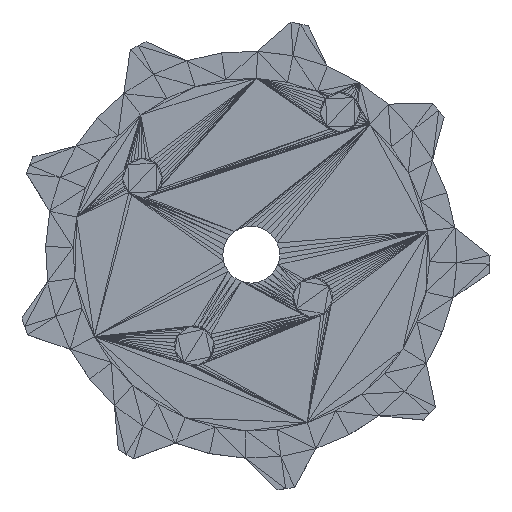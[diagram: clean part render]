
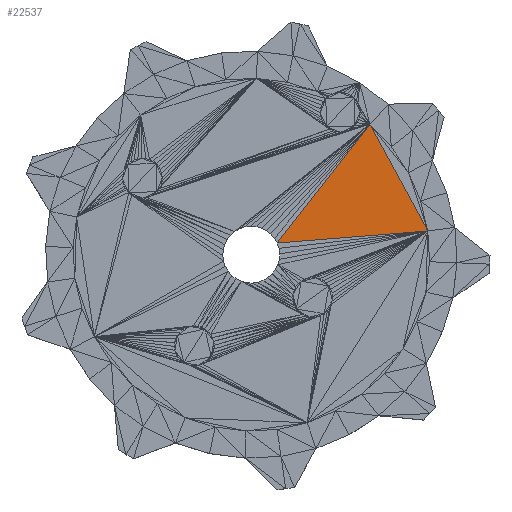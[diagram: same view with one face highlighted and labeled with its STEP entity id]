
A CAD part, top view. The second image highlights one B-rep face of the part: STEP entity #22537.
In plain terms, the highlighted planar face has unit normal (0, 0, 1).
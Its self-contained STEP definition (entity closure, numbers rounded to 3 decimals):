
#503 = VERTEX_POINT('',#504);
#504 = CARTESIAN_POINT('',(-0.226,0.363,0.639
    ));
#1130 = VERTEX_POINT('',#1131);
#1131 = CARTESIAN_POINT('',(-0.22,0.352,0.639
    ));
#22358 = PLANE('',#22359);
#22359 = AXIS2_PLACEMENT_3D('',#22360,#22361,#22362);
#22360 = CARTESIAN_POINT('',(-0.222,0.358,
    0.639));
#22361 = DIRECTION('',(0.,0.,1.));
#22362 = DIRECTION('',(1.,0.,-0.));
#22399 = EDGE_CURVE('',#503,#1130,#22400,.T.);
#22400 = SURFACE_CURVE('',#22401,(#22405,#22412),.PCURVE_S1.);
#22401 = LINE('',#22402,#22403);
#22402 = CARTESIAN_POINT('',(-0.226,0.363,
    0.639));
#22403 = VECTOR('',#22404,1.);
#22404 = DIRECTION('',(0.476,-0.879,0.));
#22405 = PCURVE('',#22358,#22406);
#22406 = DEFINITIONAL_REPRESENTATION('',(#22407),#22411);
#22407 = LINE('',#22408,#22409);
#22408 = CARTESIAN_POINT('',(-0.003,0.005));
#22409 = VECTOR('',#22410,1.);
#22410 = DIRECTION('',(0.476,-0.879));
#22411 = ( GEOMETRIC_REPRESENTATION_CONTEXT(2) 
PARAMETRIC_REPRESENTATION_CONTEXT() REPRESENTATION_CONTEXT('2D SPACE',''
  ) );
#22412 = PCURVE('',#22413,#22418);
#22413 = PLANE('',#22414);
#22414 = AXIS2_PLACEMENT_3D('',#22415,#22416,#22417);
#22415 = CARTESIAN_POINT('',(-0.227,0.355,
    0.639));
#22416 = DIRECTION('',(0.,0.,1.));
#22417 = DIRECTION('',(1.,0.,-0.));
#22418 = DEFINITIONAL_REPRESENTATION('',(#22419),#22422);
#22419 = B_SPLINE_CURVE_WITH_KNOTS('',1,(#22420,#22421),.UNSPECIFIED.,
  .F.,.F.,(2,2),(0.,0.013),.PIECEWISE_BEZIER_KNOTS.);
#22420 = CARTESIAN_POINT('',(0.002,0.008));
#22421 = CARTESIAN_POINT('',(0.008,-0.003));
#22422 = ( GEOMETRIC_REPRESENTATION_CONTEXT(2) 
PARAMETRIC_REPRESENTATION_CONTEXT() REPRESENTATION_CONTEXT('2D SPACE',''
  ) );
#22537 = ADVANCED_FACE('',(#22538),#22413,.T.);
#22538 = FACE_BOUND('',#22539,.T.);
#22539 = EDGE_LOOP('',(#22540,#22567,#22568));
#22540 = ORIENTED_EDGE('',*,*,#22541,.T.);
#22541 = EDGE_CURVE('',#22542,#1130,#22544,.T.);
#22542 = VERTEX_POINT('',#22543);
#22543 = CARTESIAN_POINT('',(-0.235,0.351,
    0.639));
#22544 = SURFACE_CURVE('',#22545,(#22549,#22556),.PCURVE_S1.);
#22545 = LINE('',#22546,#22547);
#22546 = CARTESIAN_POINT('',(-0.235,0.351,
    0.639));
#22547 = VECTOR('',#22548,1.);
#22548 = DIRECTION('',(0.997,0.079,0.));
#22549 = PCURVE('',#22413,#22550);
#22550 = DEFINITIONAL_REPRESENTATION('',(#22551),#22555);
#22551 = LINE('',#22552,#22553);
#22552 = CARTESIAN_POINT('',(-0.008,-0.004));
#22553 = VECTOR('',#22554,1.);
#22554 = DIRECTION('',(0.997,0.079));
#22555 = ( GEOMETRIC_REPRESENTATION_CONTEXT(2) 
PARAMETRIC_REPRESENTATION_CONTEXT() REPRESENTATION_CONTEXT('2D SPACE',''
  ) );
#22556 = PCURVE('',#22557,#22562);
#22557 = PLANE('',#22558);
#22558 = AXIS2_PLACEMENT_3D('',#22559,#22560,#22561);
#22559 = CARTESIAN_POINT('',(-0.228,0.351,
    0.639));
#22560 = DIRECTION('',(0.,0.,1.));
#22561 = DIRECTION('',(0.,1.,0.));
#22562 = DEFINITIONAL_REPRESENTATION('',(#22563),#22566);
#22563 = B_SPLINE_CURVE_WITH_KNOTS('',1,(#22564,#22565),.UNSPECIFIED.,
  .F.,.F.,(2,2),(0.,0.016),.PIECEWISE_BEZIER_KNOTS.);
#22564 = CARTESIAN_POINT('',(0.,0.008));
#22565 = CARTESIAN_POINT('',(0.001,-0.008));
#22566 = ( GEOMETRIC_REPRESENTATION_CONTEXT(2) 
PARAMETRIC_REPRESENTATION_CONTEXT() REPRESENTATION_CONTEXT('2D SPACE',''
  ) );
#22567 = ORIENTED_EDGE('',*,*,#22399,.F.);
#22568 = ORIENTED_EDGE('',*,*,#22569,.F.);
#22569 = EDGE_CURVE('',#22542,#503,#22570,.T.);
#22570 = SURFACE_CURVE('',#22571,(#22575,#22581),.PCURVE_S1.);
#22571 = LINE('',#22572,#22573);
#22572 = CARTESIAN_POINT('',(-0.235,0.351,
    0.639));
#22573 = VECTOR('',#22574,1.);
#22574 = DIRECTION('',(0.615,0.788,0.));
#22575 = PCURVE('',#22413,#22576);
#22576 = DEFINITIONAL_REPRESENTATION('',(#22577),#22580);
#22577 = B_SPLINE_CURVE_WITH_KNOTS('',1,(#22578,#22579),.UNSPECIFIED.,
  .F.,.F.,(2,2),(0.,0.016),.PIECEWISE_BEZIER_KNOTS.);
#22578 = CARTESIAN_POINT('',(-0.008,-0.004));
#22579 = CARTESIAN_POINT('',(0.002,0.008));
#22580 = ( GEOMETRIC_REPRESENTATION_CONTEXT(2) 
PARAMETRIC_REPRESENTATION_CONTEXT() REPRESENTATION_CONTEXT('2D SPACE',''
  ) );
#22581 = PCURVE('',#22582,#22587);
#22582 = PLANE('',#22583);
#22583 = AXIS2_PLACEMENT_3D('',#22584,#22585,#22586);
#22584 = CARTESIAN_POINT('',(-0.231,0.357,
    0.639));
#22585 = DIRECTION('',(0.,0.,1.));
#22586 = DIRECTION('',(1.,0.,0.));
#22587 = DEFINITIONAL_REPRESENTATION('',(#22588),#22592);
#22588 = LINE('',#22589,#22590);
#22589 = CARTESIAN_POINT('',(-0.005,-0.006));
#22590 = VECTOR('',#22591,1.);
#22591 = DIRECTION('',(0.615,0.788));
#22592 = ( GEOMETRIC_REPRESENTATION_CONTEXT(2) 
PARAMETRIC_REPRESENTATION_CONTEXT() REPRESENTATION_CONTEXT('2D SPACE',''
  ) );
